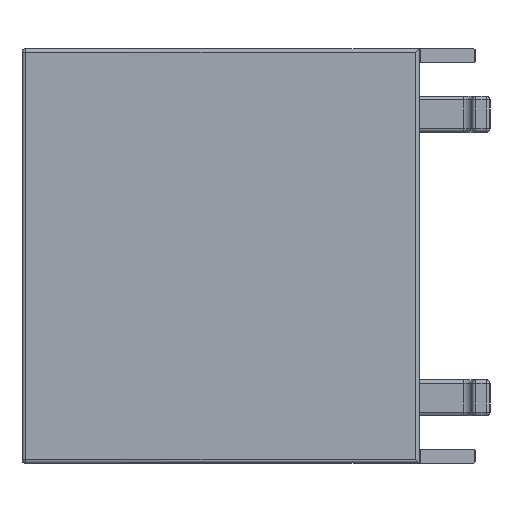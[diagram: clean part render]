
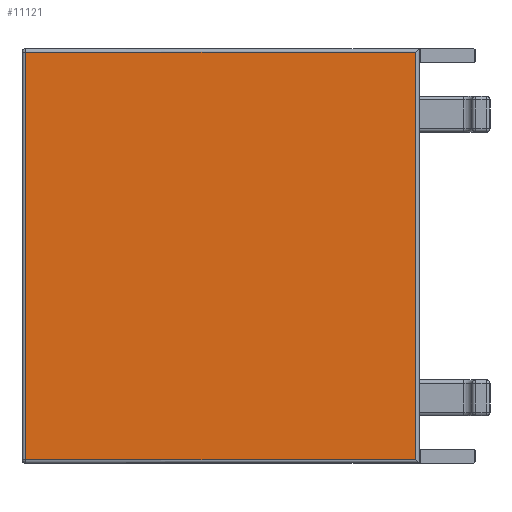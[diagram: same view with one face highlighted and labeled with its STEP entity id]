
A CAD part, left-side view. The second image highlights one B-rep face of the part: STEP entity #11121.
In plain terms, the highlighted planar face has unit normal (-1, 0, 0).
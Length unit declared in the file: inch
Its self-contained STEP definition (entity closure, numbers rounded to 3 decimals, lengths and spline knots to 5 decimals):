
#2000 = CARTESIAN_POINT ( 'NONE',  ( -0.30017, 0.2185, -0.11316 ) ) ;
#2025 = CARTESIAN_POINT ( 'NONE',  ( -0.30017, 0.2185, 0.11316 ) ) ;
#2281 = DIRECTION ( 'NONE',  ( 0., -1., 0. ) ) ;
#2282 = VECTOR ( 'NONE', #2281, 39.37008 ) ;
#2283 = CARTESIAN_POINT ( 'NONE',  ( -0.3002, 0.00003, -0.11319 ) ) ;
#2284 = LINE ( 'NONE', #2283, #2282 ) ;
#2440 = DIRECTION ( 'NONE',  ( 0., 0., -1. ) ) ;
#2441 = VECTOR ( 'NONE', #2440, 39.37008 ) ;
#2442 = CARTESIAN_POINT ( 'NONE',  ( -0.30017, 0.2185, -0.11513 ) ) ;
#2443 = LINE ( 'NONE', #2442, #2441 ) ;
#2516 = FACE_OUTER_BOUND ( 'NONE', #10962, .T. ) ;
#2553 = DIRECTION ( 'NONE',  ( 0., 1., 0. ) ) ;
#2554 = VECTOR ( 'NONE', #2553, 39.37008 ) ;
#2555 = CARTESIAN_POINT ( 'NONE',  ( -0.3002, 0., 0.11319 ) ) ;
#2556 = LINE ( 'NONE', #2555, #2554 ) ;
#2570 = DIRECTION ( 'NONE',  ( 0., -1., 0. ) ) ;
#2571 = DIRECTION ( 'NONE',  ( -1., 0., 0. ) ) ;
#2572 = CARTESIAN_POINT ( 'NONE',  ( -0.3002, 0., 0.11516 ) ) ;
#2574 = AXIS2_PLACEMENT_3D ( 'NONE', #2572, #2571, #2570 ) ;
#2575 = PLANE ( 'NONE',  #2574 ) ;
#10080 = DIRECTION ( 'NONE',  ( 0., 0., 1. ) ) ;
#10081 = VECTOR ( 'NONE', #10080, 39.37008 ) ;
#10082 = CARTESIAN_POINT ( 'NONE',  ( -0.3002, 0.00197, 0.11516 ) ) ;
#10083 = LINE ( 'NONE', #10082, #10081 ) ;
#10138 = CARTESIAN_POINT ( 'NONE',  ( -0.3002, 0.00197, 0.11319 ) ) ;
#10165 = CARTESIAN_POINT ( 'NONE',  ( -0.3002, 0.00197, -0.11319 ) ) ;
#10933 = ORIENTED_EDGE ( 'NONE', *, *, #11048, .T. ) ;
#10954 = ORIENTED_EDGE ( 'NONE', *, *, #11089, .T. ) ;
#10961 = VERTEX_POINT ( 'NONE', #2000 ) ;
#10962 = EDGE_LOOP ( 'NONE', ( #10954, #10933, #14319, #14318 ) ) ;
#10969 = VERTEX_POINT ( 'NONE', #2025 ) ;
#11048 = EDGE_CURVE ( 'NONE', #10961, #14323, #2284, .T. ) ;
#11089 = EDGE_CURVE ( 'NONE', #10969, #10961, #2443, .T. ) ;
#11121 = ADVANCED_FACE ( 'NONE', ( #2516 ), #2575, .T. ) ;
#11130 = EDGE_CURVE ( 'NONE', #14320, #10969, #2556, .T. ) ;
#14316 = EDGE_CURVE ( 'NONE', #14323, #14320, #10083, .T. ) ;
#14318 = ORIENTED_EDGE ( 'NONE', *, *, #11130, .T. ) ;
#14319 = ORIENTED_EDGE ( 'NONE', *, *, #14316, .T. ) ;
#14320 = VERTEX_POINT ( 'NONE', #10138 ) ;
#14323 = VERTEX_POINT ( 'NONE', #10165 ) ;
